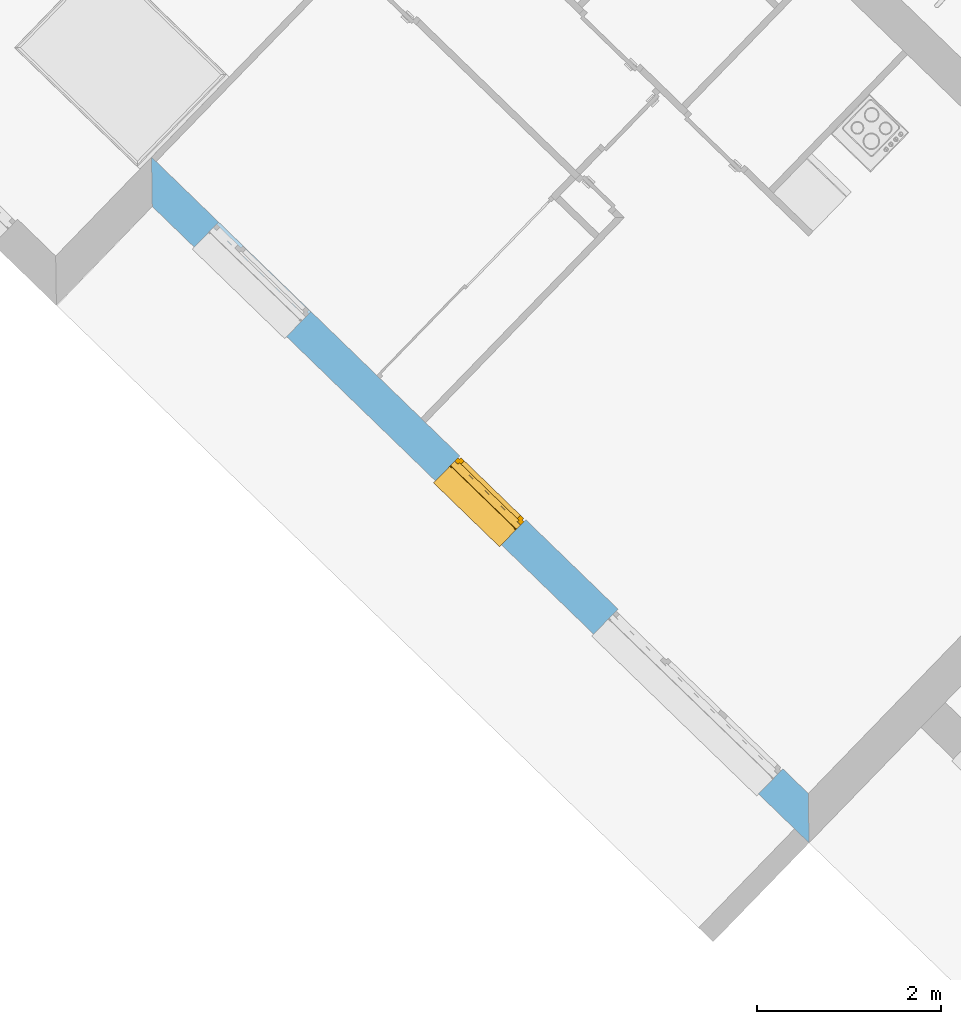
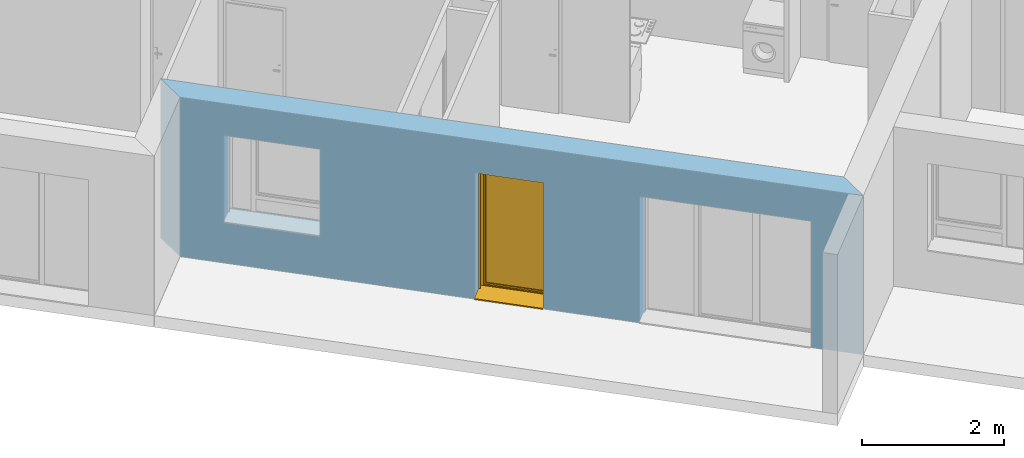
# One storey, part 107 of 195: 1 window, 3 openings, plus 1 element that does not belong to this part.
"""IFC2X3 building model written with IfcOpenShell, lengths in metres."""

import ifcopenshell
import ifcopenshell.guid

model = None  # the IFC model being written
_history = None  # IfcOwnerHistory: only IFC2X3 demands one
_inside = {}  # id of a spatial element -> (the spatial element, [elements in it])
_under = {}  # id of a project, library or spatial element -> (it, [spatial elements below it])
_declared = {}  # id of a project -> (the project, [libraries it declares])
_typed = {}  # id of a type object -> (the type object, [elements of that type])
_made_of = {}  # id of a material, layer set ... -> (it, [elements and type objects made of it])


def new_model(schema):
    """Start an empty IFC model of exactly this schema.

    Asked for "IFC4X3", IfcOpenShell would pick the latest addendum, in which some entities
    have other attributes; the version numbers below select the first issue.
    IFC2X3 requires an IfcOwnerHistory on every rooted entity: one is made here for all.
    """
    global model, _history
    if schema == "IFC4X3":
        model = ifcopenshell.file(schema_version=(4, 3, 0, 0))
    else:
        model = ifcopenshell.file(schema=schema)
    _inside.clear()
    _under.clear()
    _declared.clear()
    _typed.clear()
    _made_of.clear()
    _history = None
    if model.schema == "IFC2X3":
        org = make("IfcOrganization", Name="unknown")
        user = make(
            "IfcPersonAndOrganization",
            ThePerson=make("IfcPerson", FamilyName="unknown"),
            TheOrganization=org,
        )
        app = make(
            "IfcApplication",
            ApplicationDeveloper=org,
            Version="unknown",
            ApplicationFullName="unknown",
            ApplicationIdentifier="unknown",
        )
        _history = make(
            "IfcOwnerHistory",
            OwningUser=user,
            OwningApplication=app,
            ChangeAction="ADDED",
            CreationDate=0,
        )
    return model


def make(cls, **values):
    """One entity of the class cls with the attributes given. An attribute that is None is left unset."""
    return model.create_entity(
        cls, **{name: value for name, value in values.items() if value is not None}
    )


def entity(cls, *values):
    """Any entity or typed value of the class cls, its attributes in the order of the schema. None: left unset."""
    e = model.create_entity(cls)
    for i, value in enumerate(values):
        if value is not None:
            e[i] = value
    return e


def rooted(cls, **values):
    """An entity with a GlobalId (a new one), such as an element, a storey or a relation."""
    return make(cls, GlobalId=ifcopenshell.guid.new(), OwnerHistory=_history, **values)


def si_unit(unit_type, name, prefix=None):
    """IfcSIUnit, for example si_unit("LENGTHUNIT", "METRE", prefix="MILLI")."""
    return make("IfcSIUnit", UnitType=unit_type, Prefix=prefix, Name=name)


def converted_unit(unit_type, name, factor, base, dimensions=None, offset=None):
    """IfcConversionBasedUnit, such as the inch: factor (a typed value) times the base unit."""
    return make(
        "IfcConversionBasedUnit"
        if offset is None
        else "IfcConversionBasedUnitWithOffset",
        ConversionOffset=offset,
        Dimensions=None
        if dimensions is None
        else entity("IfcDimensionalExponents", *dimensions),
        UnitType=unit_type,
        Name=name,
        ConversionFactor=make(
            "IfcMeasureWithUnit", ValueComponent=factor, UnitComponent=base
        ),
    )


def derived_unit(unit_type, elements):
    """IfcDerivedUnit: a product of units, each with its exponent."""
    return make(
        "IfcDerivedUnit",
        Elements=[
            make("IfcDerivedUnitElement", Unit=unit, Exponent=power)
            for unit, power in elements
        ],
        UnitType=unit_type,
    )


def money_unit(currency):
    """IfcMonetaryUnit."""
    return make("IfcMonetaryUnit", Currency=currency)


def assignment(units):
    """IfcUnitAssignment: the units of a project."""
    return None if units is None else make("IfcUnitAssignment", Units=units)


def point(xyz):
    """IfcCartesianPoint."""
    return None if xyz is None else make("IfcCartesianPoint", Coordinates=xyz)


def direction(xyz):
    """IfcDirection."""
    return None if xyz is None else make("IfcDirection", DirectionRatios=xyz)


def frame(location, z_axis=None, x_axis=None):
    """IfcAxis2Placement3D, a coordinate frame: its origin and axes. An axis left out is left unset."""
    return make(
        "IfcAxis2Placement3D",
        Location=point(location),
        Axis=direction(z_axis),
        RefDirection=direction(x_axis),
    )


def origin_with_axes():
    """The frame at (0, 0, 0) with the z axis (0, 0, 1) and the x axis (1, 0, 0) written out."""
    return frame((0.0, 0.0, 0.0), z_axis=(0.0, 0.0, 1.0), x_axis=(1.0, 0.0, 0.0))


def place(relative_to, where):
    """IfcLocalPlacement: puts the frame where relative to a parent placement (None: the world)."""
    return make(
        "IfcLocalPlacement", PlacementRelTo=relative_to, RelativePlacement=where
    )


def context(
    kind, dimensions, precision=None, world=None, true_north=None, identifier=None
):
    """IfcGeometricRepresentationContext, for example the 3D "Model" context."""
    return make(
        "IfcGeometricRepresentationContext",
        ContextIdentifier=identifier,
        ContextType=kind,
        CoordinateSpaceDimension=dimensions,
        Precision=precision,
        WorldCoordinateSystem=world,
        TrueNorth=true_north,
    )


def subcontext(parent, identifier, kind, view, scale=None):
    """IfcGeometricRepresentationSubContext, for example "Body" below "Model"."""
    return make(
        "IfcGeometricRepresentationSubContext",
        ContextIdentifier=identifier,
        ContextType=kind,
        ParentContext=parent,
        TargetScale=scale,
        TargetView=view,
    )


def project(units=None, contexts=None):
    """IfcProject with its units and contexts."""
    return rooted(
        "IfcProject",
        Name="project",
        RepresentationContexts=contexts,
        UnitsInContext=assignment(units),
    )


def spatial(cls, under=None, at=None, **own):
    """A site, building, storey or space (cls), placed at a placement, below another one or the project."""
    s = rooted(cls, ObjectPlacement=at, **own)
    if under is not None:
        _under.setdefault(under.id(), (under, []))[1].append(s)
    return s


def polyline(points):
    """IfcPolyline through the points."""
    return make("IfcPolyline", Points=[point(p) for p in points])


def outline(outer, holes=None, kind="AREA"):
    """IfcArbitraryClosedProfileDef: a profile drawn as a closed curve; with holes, ...WithVoids."""
    if holes is None:
        return make("IfcArbitraryClosedProfileDef", ProfileType=kind, OuterCurve=outer)
    return make(
        "IfcArbitraryProfileDefWithVoids",
        ProfileType=kind,
        OuterCurve=outer,
        InnerCurves=holes,
    )


def extrude(swept, where, along, depth):
    """IfcExtrudedAreaSolid: the profile swept, set in the frame where, extruded along a direction by depth."""
    return make(
        "IfcExtrudedAreaSolid",
        SweptArea=swept,
        Position=where,
        ExtrudedDirection=direction(along),
        Depth=depth,
    )


def faces_of(points, faces, orient=None, outer=None):
    """IfcFace entities. A face is a list of loops; a loop is a list of indices into points, from 0.

    orient and outer hold one flag for each loop. By default every Orientation is true, the
    first loop of a face is its IfcFaceOuterBound and the others are IfcFaceBound.
    """
    made = []
    for i, loops in enumerate(faces):
        bounds = []
        for j, loop in enumerate(loops):
            is_outer = j == 0 if outer is None else outer[i][j]
            bounds.append(
                make(
                    "IfcFaceOuterBound" if is_outer else "IfcFaceBound",
                    Bound=make("IfcPolyLoop", Polygon=[points[k] for k in loop]),
                    Orientation=True if orient is None else orient[i][j],
                )
            )
        made.append(make("IfcFace", Bounds=bounds))
    return made


def open_shell(faces, orient=None, outer=None):
    """The faces of one IfcOpenShell. surface_model builds it on its shared points."""
    return ("IfcOpenShell", faces, orient, outer)


def faceted_brep(points, faces, orient=None, outer=None, voids=None):
    """IfcFacetedBrep: a solid bounded by flat faces; with voids (closed shells), ...WithVoids."""
    shared = [point(p) for p in points]
    hull = make("IfcClosedShell", CfsFaces=faces_of(shared, faces, orient, outer))
    if voids is None:
        return make("IfcFacetedBrep", Outer=hull)
    return make(
        "IfcFacetedBrepWithVoids",
        Outer=hull,
        Voids=[
            make(cls, CfsFaces=faces_of(shared, fs, o, b)) for cls, fs, o, b in voids
        ],
    )


def surface_model(cls, points, shells):
    """IfcFaceBasedSurfaceModel or IfcShellBasedSurfaceModel (cls): surfaces that need not close."""
    shared = [point(p) for p in points]
    made = [make(c, CfsFaces=faces_of(shared, fs, o, b)) for c, fs, o, b in shells]
    if cls == "IfcFaceBasedSurfaceModel":
        return make(cls, FbsmFaces=made)
    return make(cls, SbsmBoundary=made)


def shape(context_of_items, identifier, shape_type, items):
    """IfcShapeRepresentation: the items that make up one representation, for example the "Body"."""
    return make(
        "IfcShapeRepresentation",
        ContextOfItems=context_of_items,
        RepresentationIdentifier=identifier,
        RepresentationType=shape_type,
        Items=items,
    )


def material(Name=None, Category=None):
    """IfcMaterial."""
    return make("IfcMaterial", Name=Name, Category=Category)


def layer(
    of_material, thickness, ventilated=None, Name=None, Category=None, Priority=None
):
    """IfcMaterialLayer: one layer of a wall or slab, of a material (None: an air gap)."""
    return make(
        "IfcMaterialLayer",
        Material=of_material,
        LayerThickness=thickness,
        IsVentilated=ventilated,
        Name=Name,
        Category=Category,
        Priority=Priority,
    )


def layer_set(layers, Name=None):
    """IfcMaterialLayerSet."""
    return make("IfcMaterialLayerSet", MaterialLayers=layers, LayerSetName=Name)


def layer_usage(for_layer_set, set_direction, sense, offset, extent=None):
    """IfcMaterialLayerSetUsage: how a layer set lies in its element."""
    return make(
        "IfcMaterialLayerSetUsage",
        ForLayerSet=for_layer_set,
        LayerSetDirection=set_direction,
        DirectionSense=sense,
        OffsetFromReferenceLine=offset,
        ReferenceExtent=extent,
    )


def made_of(thing, what):
    """Note that an element or type object is made of a material, layer set ...; save() writes the relation."""
    if what is not None:
        _made_of.setdefault(what.id(), (what, []))[1].append(thing)
    return thing


def type_object(cls, material=None, **own):
    """A type object (cls), such as IfcWallType, which elements share."""
    return made_of(rooted(cls, **own), material)


def element(
    cls,
    number,
    at=None,
    inside=None,
    cuts=None,
    type_object=None,
    material=None,
    context=None,
    identifier="Body",
    shape_type=None,
    held_by="IfcProductDefinitionShape",
    body=None,
    shapes=None,
    **own,
):
    """One element of the class cls, such as IfcWall. Its Tag is "e" and its number.

    at: its placement. inside: the storey or other place that contains it. cuts: it is an
    opening in that element (IfcRelVoidsElement). A single representation is given by context,
    identifier, shape_type and body (its items); several are given by shapes. held_by: the class
    of the entity that holds the representations. save() writes the other relations.
    """
    e = rooted(cls, Tag="e%d" % number, ObjectPlacement=at, **own)
    if body is not None:
        shapes = [shape(context, identifier, shape_type, body)]
    if shapes is not None:
        e.Representation = make(held_by, Representations=shapes)
    if inside is not None:
        _inside.setdefault(inside.id(), (inside, []))[1].append(e)
    if cuts is not None:
        rooted(
            "IfcRelVoidsElement", RelatingBuildingElement=cuts, RelatedOpeningElement=e
        )
    if type_object is not None:
        _typed.setdefault(type_object.id(), (type_object, []))[1].append(e)
    return made_of(e, material)


def fill(opening, filler):
    """IfcRelFillsElement: the door or window that sits in an opening."""
    return rooted(
        "IfcRelFillsElement",
        RelatingOpeningElement=opening,
        RelatedBuildingElement=filler,
    )


def aggregate(whole, parts):
    """IfcRelAggregates: a whole, such as a stair, and the parts it consists of."""
    return rooted("IfcRelAggregates", RelatingObject=whole, RelatedObjects=parts)


def save(model, path):
    """Write the relations noted so far, then the file.

    IfcRelAggregates (storeys below a building ...), IfcRelContainedInSpatialStructure (elements
    in a storey), IfcRelDefinesByType, IfcRelAssociatesMaterial and IfcRelDeclares: one each for
    every whole, place, type object, material and project.
    """
    for whole, parts in _under.values():
        aggregate(whole, parts)
    for where, things in _inside.values():
        rooted(
            "IfcRelContainedInSpatialStructure",
            RelatedElements=things,
            RelatingStructure=where,
        )
    for kind, things in _typed.values():
        rooted("IfcRelDefinesByType", RelatedObjects=things, RelatingType=kind)
    for what, things in _made_of.values():
        rooted("IfcRelAssociatesMaterial", RelatedObjects=things, RelatingMaterial=what)
    for by, libraries in _declared.values():
        rooted("IfcRelDeclares", RelatingContext=by, RelatedDefinitions=libraries)
    model.write(path)


model = new_model("IFC2X3")

# Units and contexts
model_context = context("Model", 3, precision=1e-05, world=origin_with_axes(), true_north=direction((0.0, 1.0)))
body_context = subcontext(model_context, "Body", "Model", "MODEL_VIEW")
ifc_project = project(units=[si_unit("LENGTHUNIT", "METRE"), si_unit("AREAUNIT", "SQUARE_METRE"), si_unit("VOLUMEUNIT", "CUBIC_METRE"), converted_unit("PLANEANGLEUNIT", "DEGREE", entity("IfcPlaneAngleMeasure", 0.0174532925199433), si_unit("PLANEANGLEUNIT", "RADIAN"), dimensions=[0, 0, 0, 0, 0, 0, 0]), money_unit("CHF"), converted_unit("TIMEUNIT", "Year", entity("IfcTimeMeasure", 31557600.0), si_unit("TIMEUNIT", "SECOND"), dimensions=[0, 0, 1, 0, 0, 0, 0]), si_unit("MASSUNIT", "GRAM", prefix="KILO"), si_unit("THERMODYNAMICTEMPERATUREUNIT", "DEGREE_CELSIUS"), si_unit("LUMINOUSINTENSITYUNIT", "LUMEN"), si_unit("ENERGYUNIT", "JOULE", prefix="MEGA"), derived_unit("THERMALCONDUCTANCEUNIT", [(si_unit("POWERUNIT", "WATT"), 1), (si_unit("LENGTHUNIT", "METRE"), -1), (si_unit("THERMODYNAMICTEMPERATUREUNIT", "KELVIN"), -1)]), derived_unit("SPECIFICHEATCAPACITYUNIT", [(si_unit("ENERGYUNIT", "JOULE"), 1), (si_unit("MASSUNIT", "GRAM", prefix="KILO"), -1), (si_unit("THERMODYNAMICTEMPERATUREUNIT", "KELVIN"), -1)]), derived_unit("MASSDENSITYUNIT", [(si_unit("MASSUNIT", "GRAM", prefix="KILO"), 1), (si_unit("VOLUMEUNIT", "CUBIC_METRE"), -1)])], contexts=[model_context])

# Site, building, storey
site_placement = place(None, origin_with_axes())
site = spatial("IfcSite", under=ifc_project, at=site_placement, Name="Site", CompositionType="ELEMENT")
building_placement = place(site_placement, origin_with_axes())
building = spatial("IfcBuilding", under=site, at=building_placement, Name="Bâtiment", CompositionType="ELEMENT")
storey_placement = place(building_placement, origin_with_axes())
storey = spatial("IfcBuildingStorey", under=building, at=storey_placement, Name="rdc", CompositionType="ELEMENT", Elevation=0.0)

# Wall, openings, window
ifc_material_1 = material(Name="Parpaing 312445824")
ifc_layer_1 = layer(ifc_material_1, 0.22, ventilated="UNKNOWN")
ifc_material_2 = material(Name="Isolant styromousse 301821074")
ifc_layer_2 = layer(ifc_material_2, 0.16, ventilated="UNKNOWN")
ifc_layer_set = layer_set([ifc_layer_1, ifc_layer_2], Name="isol int 22+16 0836643197")
ifc_layer_usage = layer_usage(ifc_layer_set, "AXIS2", "NEGATIVE", 0.0)
wall_type = type_object("IfcWallType", Name="isol int 22+16 0836643197 380", PredefinedType="NOTDEFINED")
wall_placement = place(storey_placement, frame((9522.723727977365, -1071.439827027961, 57.7), z_axis=(0.0, 0.0, 1.0), x_axis=(-0.7181763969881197, 0.6958610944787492, 0.0)))
wall = element("IfcWallStandardCase", 1, at=wall_placement, inside=storey, type_object=wall_type, material=ifc_layer_usage, Name="Mur-115", context=body_context, shape_type="SweptSolid", body=[
    extrude(outline(polyline([(0.3799999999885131, -0.3800000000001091), (10.33768647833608, -0.3799999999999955), (9.957686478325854, 0.0), (0.0, 0.0), (0.3799999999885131, -0.3800000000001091)])), origin_with_axes(), (0.0, 0.0, 1.0), 2.75),
])
opening_1_placement = place(wall_placement, frame((8.621077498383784, 0.0, 0.7000000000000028), z_axis=(0.0, 0.0, 1.0), x_axis=(1.0, 0.0, 0.0)))
element("IfcOpeningElement", 2, at=opening_1_placement, cuts=wall, Name="Fen-045", context=body_context, shape_type="Brep", body=[
    faceted_brep([(0.7000000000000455, -0.4800000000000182, 1.5), (-0.6999999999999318, -0.4800000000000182, 1.5), (-0.6999999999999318, -5.35736391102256, 1.5), (0.7000000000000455, -5.357363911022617, 1.5), (0.7000000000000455, -0.4800000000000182, 1.700000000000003), (-0.6999999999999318, -0.4800000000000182, 1.700000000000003), (-0.6999999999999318, -0.2999999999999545, 1.5), (-0.6999999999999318, -0.2999999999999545, 0.0), (-0.6999999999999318, -5.35736391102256, 0.0), (0.7000000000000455, -5.357363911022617, 0.0), (0.7000000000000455, -0.3000000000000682, 1.5), (0.7000000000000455, -0.3000000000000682, 0.0), (0.7000000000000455, -0.220000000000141, 1.5), (0.7000000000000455, -0.220000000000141, 1.700000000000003), (-0.6999999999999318, -0.2200000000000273, 1.700000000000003), (-0.6999999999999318, -0.2200000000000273, 1.5), (-0.7000000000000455, 4.977363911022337, 1.5), (-0.7000000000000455, 4.977363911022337, 0.0), (0.6999999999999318, 4.977363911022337, 0.0), (0.6999999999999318, 4.977363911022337, 1.5)], [[[0, 1, 2, 3]], [[1, 0, 4, 5]], [[1, 6, 7, 8, 2]], [[2, 8, 9, 3]], [[10, 0, 3, 9, 11]], [[0, 10, 12, 13, 4]], [[4, 13, 14, 5]], [[6, 1, 5, 14, 15]], [[6, 15, 16, 17, 7]], [[7, 11, 9, 8]], [[12, 10, 11, 18, 19]], [[12, 15, 14, 13]], [[15, 12, 19, 16]], [[19, 18, 17, 16]], [[11, 7, 17, 18]]]),
])
opening_2_placement = place(wall_placement, frame((2.015639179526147, 0.0, 0.0), z_axis=(0.0, 0.0, 1.0), x_axis=(1.0, 0.0, 0.0)))
element("IfcOpeningElement", 3, at=opening_2_placement, cuts=wall, Name="Fen-053", context=body_context, shape_type="Brep", body=[
    faceted_brep([(1.249999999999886, -0.4799999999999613, 2.18), (-1.250000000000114, -0.4799999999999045, 2.18), (-1.25, -5.357363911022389, 2.18), (1.249999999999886, -5.357363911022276, 2.18), (1.249999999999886, -0.4799999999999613, 2.380000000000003), (-1.250000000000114, -0.4799999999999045, 2.380000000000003), (-1.25, -0.2999999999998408, 2.18), (-1.25, -0.2999999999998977, 0.0), (-1.25, -5.357363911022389, 0.0), (1.249999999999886, -5.357363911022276, 0.0), (1.249999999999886, -0.2999999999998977, 2.18), (1.249999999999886, -0.2999999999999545, 0.0), (1.249999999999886, -0.2199999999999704, 2.18), (1.249999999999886, -0.2199999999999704, 2.380000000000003), (-1.250000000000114, -0.2199999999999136, 2.380000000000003), (-1.250000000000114, -0.2199999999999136, 2.18), (-1.25, 4.977363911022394, 2.18), (-1.25, 4.977363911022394, 0.0), (1.249999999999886, 4.977363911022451, 0.0), (1.249999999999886, 4.977363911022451, 2.18)], [[[0, 1, 2, 3]], [[1, 0, 4, 5]], [[1, 6, 7, 8, 2]], [[2, 8, 9, 3]], [[10, 0, 3, 9, 11]], [[0, 10, 12, 13, 4]], [[4, 13, 14, 5]], [[6, 1, 5, 14, 15]], [[6, 15, 16, 17, 7]], [[7, 11, 9, 8]], [[12, 10, 11, 18, 19]], [[12, 15, 14, 13]], [[15, 12, 19, 16]], [[19, 18, 17, 16]], [[11, 7, 17, 18]]]),
])
opening_3_placement = place(wall_placement, frame((5.163672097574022, 0.0, 0.0), z_axis=(0.0, 0.0, 1.0), x_axis=(1.0, 0.0, 0.0)))
opening_3 = element("IfcOpeningElement", 4, at=opening_3_placement, cuts=wall, Name="Fen-052", context=body_context, shape_type="Brep", body=[
    faceted_brep([(0.5000000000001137, -0.4799999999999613, 2.18), (-0.4999999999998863, -0.480000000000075, 2.18), (-0.4999999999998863, -5.357363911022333, 2.18), (0.5000000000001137, -5.357363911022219, 2.18), (0.5000000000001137, -0.4799999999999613, 2.380000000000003), (-0.4999999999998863, -0.480000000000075, 2.380000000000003), (-0.4999999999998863, -0.3000000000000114, 2.18), (-0.4999999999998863, -0.3000000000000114, 0.0), (-0.4999999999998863, -5.357363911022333, 0.0), (0.5000000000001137, -5.357363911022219, 0.0), (0.5, -0.2999999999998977, 2.18), (0.5000000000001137, -0.2999999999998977, 0.0), (0.5, -0.2199999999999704, 2.18), (0.5, -0.2199999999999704, 2.380000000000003), (-0.4999999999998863, -0.2200000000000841, 2.380000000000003), (-0.4999999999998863, -0.2200000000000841, 2.18), (-0.5, 4.977363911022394, 2.18), (-0.5, 4.977363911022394, 0.0), (0.5000000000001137, 4.977363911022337, 0.0), (0.5000000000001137, 4.977363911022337, 2.18)], [[[0, 1, 2, 3]], [[1, 0, 4, 5]], [[1, 6, 7, 8, 2]], [[2, 8, 9, 3]], [[10, 0, 3, 9, 11]], [[0, 10, 12, 13, 4]], [[14, 5, 4, 13]], [[6, 1, 5, 14, 15]], [[6, 15, 16, 17, 7]], [[7, 11, 9, 8]], [[12, 10, 11, 18, 19]], [[12, 15, 14, 13]], [[15, 12, 19, 16]], [[19, 18, 17, 16]], [[11, 7, 17, 18]]]),
])
window_style = type_object("IfcWindowStyle", Name="Fenêtre variable 27", ConstructionType="NOTDEFINED", OperationType="SINGLE_PANEL", ParameterTakesPrecedence=False, Sizeable=False)
window_placement = place(opening_3_placement, frame((0.5000000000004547, 0.0, 0.0), z_axis=(0.0, 0.0, 1.0), x_axis=(-1.0, 0.0, 0.0)))
window = element("IfcWindow", 5, at=window_placement, inside=storey, type_object=window_style, Name="Fen-052", OverallHeight=2.18, OverallWidth=1.0, context=body_context, shape_type="SurfaceModel", body=[
    surface_model("IfcShellBasedSurfaceModel", [(0.0, 0.2990000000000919, 0.04999999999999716), (0.0, 0.2990000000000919, 0.03999999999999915), (1.000000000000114, 0.2990000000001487, 0.03999999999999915), (1.000000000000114, 0.2990000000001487, 0.04999999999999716), (0.0, -0.02999999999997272, 0.02900000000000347), (1.000000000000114, -0.02999999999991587, 0.02900000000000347), (0.0, -0.02999999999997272, 0.009000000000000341), (1.000000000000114, -0.02999999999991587, 0.009000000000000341), (0.0, -0.01999999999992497, 0.01899999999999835), (1.000000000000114, -0.01999999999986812, 0.01899999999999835)], [open_shell([[[0, 1, 2, 3]], [[1, 4, 5, 2]], [[4, 6, 7, 5]], [[6, 8, 9, 7]]])]),
    faceted_brep([(0.0, 0.2200000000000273, 2.380000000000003), (0.003000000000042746, 0.2200000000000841, 2.380000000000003), (0.003000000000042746, 0.480000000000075, 2.380000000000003), (0.0, 0.4800000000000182, 2.380000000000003), (0.0, 0.2200000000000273, 2.18), (0.003000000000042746, 0.2200000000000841, 2.18), (0.003000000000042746, 0.480000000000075, 2.18), (0.0, 0.4800000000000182, 2.18)], [[[0, 1, 2, 3]], [[4, 5, 1, 0]], [[1, 5, 6, 2]], [[3, 2, 6, 7]], [[0, 3, 7, 4]], [[7, 6, 5, 4]]]),
    faceted_brep([(0.9970000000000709, 0.2200000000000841, 2.380000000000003), (1.0, 0.220000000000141, 2.380000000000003), (1.0, 0.4800000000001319, 2.380000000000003), (0.9970000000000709, 0.480000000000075, 2.380000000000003), (0.9970000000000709, 0.2200000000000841, 2.18), (1.0, 0.220000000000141, 2.18), (1.0, 0.4800000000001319, 2.18), (0.9970000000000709, 0.480000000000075, 2.18)], [[[0, 1, 2, 3]], [[4, 5, 1, 0]], [[1, 5, 6, 2]], [[3, 2, 6, 7]], [[0, 3, 7, 4]], [[7, 6, 5, 4]]]),
    faceted_brep([(0.003000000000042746, 0.2200000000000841, 2.18), (0.9970000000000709, 0.2200000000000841, 2.18), (0.9970000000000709, 0.2200000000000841, 2.380000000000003), (0.003000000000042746, 0.2200000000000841, 2.380000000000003), (0.003000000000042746, 0.2230000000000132, 2.18), (0.9970000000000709, 0.2230000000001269, 2.18), (0.9970000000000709, 0.2230000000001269, 2.377000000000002), (0.9970000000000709, 0.477000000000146, 2.377000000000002), (0.9970000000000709, 0.477000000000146, 2.183), (0.9969999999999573, 0.2420000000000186, 2.183), (0.9969999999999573, 0.2420000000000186, 2.18), (0.9970000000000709, 0.480000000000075, 2.18), (0.9970000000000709, 0.480000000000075, 2.380000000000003), (0.003000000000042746, 0.480000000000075, 2.380000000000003), (0.003000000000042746, 0.480000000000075, 2.18), (0.003000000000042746, 0.2420000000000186, 2.18), (0.003000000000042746, 0.2420000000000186, 2.183), (0.003000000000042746, 0.4770000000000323, 2.183), (0.003000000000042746, 0.4770000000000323, 2.377000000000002), (0.003000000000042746, 0.2230000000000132, 2.377000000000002)], [[[0, 1, 2, 3]], [[4, 5, 1, 0]], [[1, 5, 6, 7, 8, 9, 10, 11, 12, 2]], [[3, 2, 12, 13]], [[0, 3, 13, 14, 15, 16, 17, 18, 19, 4]], [[19, 6, 5, 4]], [[18, 7, 6, 19]], [[17, 8, 7, 18]], [[16, 9, 8, 17]], [[15, 10, 9, 16]], [[14, 11, 10, 15]], [[13, 12, 11, 14]]]),
    faceted_brep([(0.006000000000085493, 0.2692457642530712, 2.26576084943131), (0.006000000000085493, 0.2680000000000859, 2.280000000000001), (0.006000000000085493, 0.2692457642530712, 2.294239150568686), (0.005999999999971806, 0.2729452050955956, 2.308045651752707), (0.006000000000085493, 0.2789859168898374, 2.320999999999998), (0.006000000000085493, 0.2871843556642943, 2.332708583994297), (0.006000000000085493, 0.2972914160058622, 2.342815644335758), (0.006000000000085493, 0.3090000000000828, 2.351014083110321), (0.005999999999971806, 0.3219543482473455, 2.357054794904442), (0.006000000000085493, 0.3357608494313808, 2.360754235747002), (0.006000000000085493, 0.3500000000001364, 2.362000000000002), (0.005999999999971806, 0.3642391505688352, 2.360754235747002), (0.005999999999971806, 0.3780456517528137, 2.357054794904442), (0.005999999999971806, 0.3910000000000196, 2.351014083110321), (0.006000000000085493, 0.4027085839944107, 2.342815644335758), (0.006000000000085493, 0.412815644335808, 2.332708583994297), (0.006000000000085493, 0.4210140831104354, 2.320999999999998), (0.005999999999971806, 0.4270547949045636, 2.308045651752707), (0.006000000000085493, 0.4307542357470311, 2.294239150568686), (0.006000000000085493, 0.4320000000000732, 2.280000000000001), (0.006000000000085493, 0.4307542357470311, 2.26576084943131), (0.005999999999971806, 0.4270547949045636, 2.251954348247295), (0.006000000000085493, 0.4210140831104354, 2.238999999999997), (0.006000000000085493, 0.412815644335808, 2.227291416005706), (0.006000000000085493, 0.4027085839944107, 2.217184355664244), (0.005999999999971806, 0.3910000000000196, 2.208985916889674), (0.005999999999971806, 0.3780456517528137, 2.202945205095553), (0.005999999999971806, 0.3642391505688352, 2.199245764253), (0.006000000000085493, 0.3500000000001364, 2.198), (0.006000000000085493, 0.3357608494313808, 2.199245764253), (0.005999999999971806, 0.3219543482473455, 2.202945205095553), (0.006000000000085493, 0.3090000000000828, 2.208985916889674), (0.006000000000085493, 0.2972914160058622, 2.217184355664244), (0.006000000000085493, 0.2871843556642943, 2.227291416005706), (0.006000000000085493, 0.2789859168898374, 2.238999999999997), (0.005999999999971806, 0.2729452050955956, 2.251954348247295), (0.9940000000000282, 0.2692457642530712, 2.26576084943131), (0.9939999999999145, 0.2680000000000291, 2.280000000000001), (0.9940000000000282, 0.2692457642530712, 2.294239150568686), (0.9940000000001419, 0.2729452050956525, 2.308045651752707), (0.9940000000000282, 0.2789859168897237, 2.320999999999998), (0.9940000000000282, 0.2871843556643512, 2.332708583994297), (0.9939999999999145, 0.2972914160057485, 2.342815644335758), (0.9940000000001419, 0.3090000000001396, 2.351014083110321), (0.9940000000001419, 0.3219543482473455, 2.357054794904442), (0.9939999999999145, 0.335760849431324, 2.360754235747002), (0.9940000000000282, 0.3500000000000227, 2.362000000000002), (0.9940000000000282, 0.3642391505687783, 2.360754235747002), (0.9940000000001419, 0.3780456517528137, 2.357054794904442), (0.9940000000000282, 0.3910000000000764, 2.351014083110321), (0.9940000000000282, 0.4027085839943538, 2.342815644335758), (0.9940000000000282, 0.4128156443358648, 2.332708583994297), (0.9940000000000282, 0.4210140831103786, 2.320999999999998), (0.9940000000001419, 0.4270547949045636, 2.308045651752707), (0.9940000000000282, 0.4307542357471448, 2.294239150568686), (0.9940000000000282, 0.4320000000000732, 2.280000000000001), (0.9940000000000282, 0.4307542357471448, 2.26576084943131), (0.9940000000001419, 0.4270547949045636, 2.251954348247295), (0.9940000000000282, 0.4210140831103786, 2.238999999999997), (0.9940000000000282, 0.4128156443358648, 2.227291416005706), (0.9940000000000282, 0.4027085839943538, 2.217184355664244), (0.9940000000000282, 0.3910000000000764, 2.208985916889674), (0.9940000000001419, 0.3780456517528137, 2.202945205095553), (0.9940000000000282, 0.3642391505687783, 2.199245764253), (0.9940000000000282, 0.3500000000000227, 2.198), (0.9939999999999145, 0.335760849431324, 2.199245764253), (0.9940000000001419, 0.3219543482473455, 2.202945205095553), (0.9940000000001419, 0.3090000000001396, 2.208985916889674), (0.9939999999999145, 0.2972914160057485, 2.217184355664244), (0.9940000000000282, 0.2871843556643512, 2.227291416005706), (0.9940000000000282, 0.2789859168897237, 2.238999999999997), (0.9940000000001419, 0.2729452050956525, 2.251954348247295)], [[[0, 1, 2, 3, 4, 5, 6, 7, 8, 9, 10, 11, 12, 13, 14, 15, 16, 17, 18, 19, 20, 21, 22, 23, 24, 25, 26, 27, 28, 29, 30, 31, 32, 33, 34, 35]], [[0, 36, 37, 1]], [[1, 37, 38, 2]], [[2, 38, 39, 3]], [[3, 39, 40, 4]], [[4, 40, 41, 5]], [[5, 41, 42, 6]], [[6, 42, 43, 7]], [[7, 43, 44, 8]], [[8, 44, 45, 9]], [[9, 45, 46, 10]], [[10, 46, 47, 11]], [[11, 47, 48, 12]], [[12, 48, 49, 13]], [[13, 49, 50, 14]], [[14, 50, 51, 15]], [[15, 51, 52, 16]], [[16, 52, 53, 17]], [[17, 53, 54, 18]], [[18, 54, 55, 19]], [[19, 55, 56, 20]], [[20, 56, 57, 21]], [[21, 57, 58, 22]], [[22, 58, 59, 23]], [[23, 59, 60, 24]], [[24, 60, 61, 25]], [[25, 61, 62, 26]], [[26, 62, 63, 27]], [[27, 63, 64, 28]], [[28, 64, 65, 29]], [[29, 65, 66, 30]], [[30, 66, 67, 31]], [[31, 67, 68, 32]], [[32, 68, 69, 33]], [[33, 69, 70, 34]], [[34, 70, 71, 35]], [[35, 71, 36, 0]], [[36, 71, 70, 69, 68, 67, 66, 65, 64, 63, 62, 61, 60, 59, 58, 57, 56, 55, 54, 53, 52, 51, 50, 49, 48, 47, 46, 45, 44, 43, 42, 41, 40, 39, 38, 37]]]),
    faceted_brep([(1.0, 0.2450000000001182, 0.03000000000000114), (1.0, 0.2450000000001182, 2.18), (1.0, 0.220000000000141, 2.18), (1.0, 0.220000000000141, 0.03000000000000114), (0.9750000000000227, 0.2450000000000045, 0.03000000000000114), (0.9750000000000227, 0.2450000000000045, 2.18), (0.9750000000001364, 0.2420000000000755, 2.18), (0.9969999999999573, 0.2420000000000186, 2.18), (0.9970000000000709, 0.2230000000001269, 2.18), (0.9750000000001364, 0.22300000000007, 2.18), (0.9750000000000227, 0.2200000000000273, 2.18), (0.9750000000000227, 0.2200000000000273, 0.03000000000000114), (0.9750000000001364, 0.22300000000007, 0.03000000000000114), (0.9970000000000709, 0.2230000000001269, 0.03000000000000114), (0.9969999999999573, 0.2420000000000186, 0.03000000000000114), (0.9750000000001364, 0.2420000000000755, 0.03000000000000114)], [[[0, 1, 2, 3]], [[4, 5, 1, 0]], [[1, 5, 6, 7, 8, 9, 10, 2]], [[3, 2, 10, 11]], [[0, 3, 11, 12, 13, 14, 15, 4]], [[15, 6, 5, 4]], [[14, 7, 6, 15]], [[13, 8, 7, 14]], [[12, 9, 8, 13]], [[11, 10, 9, 12]]]),
    faceted_brep([(0.0, 0.2450000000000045, 0.03000000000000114), (0.0, 0.2200000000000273, 0.03000000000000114), (0.0, 0.2200000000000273, 2.18), (0.0, 0.2450000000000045, 2.18), (0.02500000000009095, 0.2450000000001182, 0.03000000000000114), (0.02499999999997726, 0.2420000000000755, 0.03000000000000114), (0.003000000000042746, 0.2420000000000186, 0.03000000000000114), (0.003000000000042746, 0.2230000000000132, 0.03000000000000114), (0.02499999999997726, 0.22300000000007, 0.03000000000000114), (0.02500000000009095, 0.220000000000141, 0.03000000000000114), (0.02500000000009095, 0.220000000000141, 2.18), (0.02499999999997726, 0.22300000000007, 2.18), (0.003000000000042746, 0.2230000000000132, 2.18), (0.003000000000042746, 0.2420000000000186, 2.18), (0.02499999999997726, 0.2420000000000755, 2.18), (0.02500000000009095, 0.2450000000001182, 2.18)], [[[0, 1, 2, 3]], [[0, 4, 5, 6, 7, 8, 9, 1]], [[1, 9, 10, 2]], [[3, 2, 10, 11, 12, 13, 14, 15]], [[4, 0, 3, 15]], [[5, 4, 15, 14]], [[6, 5, 14, 13]], [[7, 6, 13, 12]], [[8, 7, 12, 11]], [[9, 8, 11, 10]]]),
    surface_model("IfcShellBasedSurfaceModel", [(0.003000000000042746, 0.2350000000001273, 2.280000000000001), (0.9970000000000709, 0.2350000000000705, 2.280000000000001), (0.9970000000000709, 0.2300000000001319, 2.280000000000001), (0.002999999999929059, 0.230000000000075, 2.280000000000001), (0.003000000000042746, 0.2350000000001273, 2.280000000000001), (0.002999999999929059, 0.230000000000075, 2.280000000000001), (0.9970000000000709, 0.2300000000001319, 2.280000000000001), (0.9970000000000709, 0.2350000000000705, 2.280000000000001)], [open_shell([[[0, 1, 2, 3]], [[4, 5, 6, 7]]])]),
    faceted_brep([(0.003000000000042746, 0.2350000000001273, 2.280000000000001), (0.9970000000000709, 0.2350000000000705, 2.280000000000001), (0.9969999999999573, 0.2333333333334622, 2.263333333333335), (0.003000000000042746, 0.2333333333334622, 2.263333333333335), (0.002999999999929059, 0.230000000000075, 2.280000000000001), (0.9970000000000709, 0.2300000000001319, 2.280000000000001), (0.9970000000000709, 0.2283333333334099, 2.263333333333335), (0.9970000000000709, 0.2283333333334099, 2.24666666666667), (0.9970000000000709, 0.2300000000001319, 2.229999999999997), (0.9970000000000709, 0.2350000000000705, 2.229999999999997), (0.9969999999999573, 0.2333333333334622, 2.24666666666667), (0.003000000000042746, 0.2333333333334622, 2.24666666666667), (0.003000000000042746, 0.2350000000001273, 2.229999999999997), (0.002999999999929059, 0.230000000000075, 2.229999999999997), (0.003000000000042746, 0.2283333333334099, 2.24666666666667), (0.003000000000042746, 0.2283333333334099, 2.263333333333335)], [[[0, 1, 2, 3]], [[4, 5, 1, 0]], [[1, 5, 6, 7, 8, 9, 10, 2]], [[3, 2, 10, 11]], [[0, 3, 11, 12, 13, 14, 15, 4]], [[15, 6, 5, 4]], [[14, 7, 6, 15]], [[13, 8, 7, 14]], [[12, 9, 8, 13]], [[11, 10, 9, 12]]]),
    faceted_brep([(0.003000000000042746, 0.2350000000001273, 2.229999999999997), (0.9970000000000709, 0.2350000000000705, 2.229999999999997), (0.9969999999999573, 0.2333333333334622, 2.213333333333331), (0.003000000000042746, 0.2333333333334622, 2.213333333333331), (0.002999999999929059, 0.230000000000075, 2.229999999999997), (0.9970000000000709, 0.2300000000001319, 2.229999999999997), (0.9970000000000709, 0.2283333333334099, 2.213333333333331), (0.9970000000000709, 0.2283333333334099, 2.196666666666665), (0.9970000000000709, 0.2300000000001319, 2.18), (0.9970000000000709, 0.2350000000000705, 2.18), (0.9969999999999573, 0.2333333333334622, 2.196666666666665), (0.003000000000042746, 0.2333333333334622, 2.196666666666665), (0.003000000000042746, 0.2350000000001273, 2.18), (0.002999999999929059, 0.230000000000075, 2.18), (0.003000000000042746, 0.2283333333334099, 2.196666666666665), (0.003000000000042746, 0.2283333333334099, 2.213333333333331)], [[[0, 1, 2, 3]], [[4, 5, 1, 0]], [[1, 5, 6, 7, 8, 9, 10, 2]], [[3, 2, 10, 11]], [[0, 3, 11, 12, 13, 14, 15, 4]], [[15, 6, 5, 4]], [[14, 7, 6, 15]], [[13, 8, 7, 14]], [[12, 9, 8, 13]], [[11, 10, 9, 12]]]),
    faceted_brep([(0.02500000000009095, 0.3500000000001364, 2.130000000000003), (0.0, 0.3500000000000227, 2.130000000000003), (0.0, 0.3000000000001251, 2.130000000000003), (0.05000000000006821, 0.3000000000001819, 2.130000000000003), (0.04999999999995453, 0.3250000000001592, 2.130000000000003), (0.02499999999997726, 0.3250000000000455, 2.130000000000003), (0.02500000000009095, 0.3500000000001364, 0.04999999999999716), (0.0, 0.3500000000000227, 0.04999999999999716), (0.0, 0.3000000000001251, 0.04999999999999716), (0.05000000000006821, 0.3000000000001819, 0.04999999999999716), (0.04999999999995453, 0.3250000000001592, 0.04999999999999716), (0.02499999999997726, 0.3250000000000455, 0.04999999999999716)], [[[0, 1, 2, 3, 4, 5]], [[6, 7, 1, 0]], [[1, 7, 8, 2]], [[2, 8, 9, 3]], [[4, 3, 9, 10]], [[10, 11, 5, 4]], [[5, 11, 6, 0]], [[11, 10, 9, 8, 7, 6]]]),
    faceted_brep([(0.9500000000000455, 0.3249999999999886, 2.130000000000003), (0.9499999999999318, 0.3000000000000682, 2.130000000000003), (1.0, 0.3000000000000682, 2.130000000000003), (1.0, 0.3500000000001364, 2.130000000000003), (0.9750000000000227, 0.3500000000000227, 2.130000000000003), (0.9750000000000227, 0.3250000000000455, 2.130000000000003), (0.9500000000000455, 0.3249999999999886, 0.04999999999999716), (0.9499999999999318, 0.3000000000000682, 0.04999999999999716), (1.0, 0.3000000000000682, 0.04999999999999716), (1.0, 0.3500000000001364, 0.04999999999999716), (0.9750000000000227, 0.3500000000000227, 0.04999999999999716), (0.9750000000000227, 0.3250000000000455, 0.04999999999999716)], [[[0, 1, 2, 3, 4, 5]], [[6, 7, 1, 0]], [[8, 2, 1, 7]], [[9, 3, 2, 8]], [[4, 3, 9, 10]], [[10, 11, 5, 4]], [[5, 11, 6, 0]], [[11, 10, 9, 8, 7, 6]]]),
    faceted_brep([(0.9500000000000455, 0.3249999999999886, 0.04999999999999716), (0.9499999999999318, 0.3000000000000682, 0.04999999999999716), (1.0, 0.3000000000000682, 0.04999999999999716), (1.0, 0.3500000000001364, 0.04999999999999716), (0.9750000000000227, 0.3500000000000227, 0.04999999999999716), (0.9750000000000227, 0.3250000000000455, 0.04999999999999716), (0.04999999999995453, 0.3250000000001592, 0.04999999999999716), (0.05000000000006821, 0.3000000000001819, 0.04999999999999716), (0.0, 0.3000000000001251, 0.04999999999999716), (0.0, 0.3000000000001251, 0.0), (1.0, 0.3000000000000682, 0.0), (1.0, 0.3500000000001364, 0.0), (0.02500000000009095, 0.3500000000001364, 0.02499999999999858), (0.9750000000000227, 0.3500000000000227, 0.02499999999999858), (0.0, 0.3500000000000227, 0.0), (0.0, 0.3500000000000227, 0.04999999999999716), (0.02500000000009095, 0.3500000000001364, 0.04999999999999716), (0.9750000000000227, 0.3250000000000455, 0.02499999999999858), (0.02499999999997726, 0.3250000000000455, 0.02499999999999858), (0.02499999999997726, 0.3250000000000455, 0.04999999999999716)], [[[0, 1, 2, 3, 4, 5]], [[6, 7, 1, 0]], [[8, 9, 10, 2, 1, 7]], [[11, 3, 2, 10]], [[12, 13, 4, 3, 11, 14, 15, 16]], [[13, 17, 5, 4]], [[5, 17, 18, 19, 6, 0]], [[19, 16, 15, 8, 7, 6]], [[15, 14, 9, 8]], [[14, 11, 10, 9]], [[12, 18, 17, 13]], [[19, 18, 12, 16]]]),
    faceted_brep([(0.02500000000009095, 0.3500000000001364, 2.130000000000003), (0.0, 0.3500000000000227, 2.130000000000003), (0.0, 0.3500000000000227, 2.18), (1.0, 0.3500000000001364, 2.18), (1.0, 0.3500000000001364, 2.130000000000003), (0.9750000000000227, 0.3500000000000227, 2.130000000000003), (0.9750000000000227, 0.3500000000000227, 2.155000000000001), (0.02500000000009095, 0.3500000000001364, 2.155000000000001), (0.02499999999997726, 0.3250000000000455, 2.130000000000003), (0.04999999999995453, 0.3250000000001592, 2.130000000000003), (0.05000000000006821, 0.3000000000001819, 2.130000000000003), (0.0, 0.3000000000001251, 2.130000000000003), (0.0, 0.3000000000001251, 2.18), (1.0, 0.3000000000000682, 2.18), (1.0, 0.3000000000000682, 2.130000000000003), (0.9750000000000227, 0.3250000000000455, 2.130000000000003), (0.9499999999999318, 0.3000000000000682, 2.130000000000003), (0.9500000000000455, 0.3249999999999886, 2.130000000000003), (0.9750000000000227, 0.3250000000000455, 2.155000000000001), (0.02499999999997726, 0.3250000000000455, 2.155000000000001)], [[[0, 1, 2, 3, 4, 5, 6, 7]], [[8, 9, 10, 11, 1, 0]], [[2, 1, 11, 12]], [[3, 2, 12, 13]], [[4, 3, 13, 14]], [[15, 5, 4, 14, 16, 17]], [[5, 15, 18, 6]], [[6, 18, 19, 7]], [[7, 19, 8, 0]], [[17, 9, 8, 19, 18, 15]], [[17, 16, 10, 9]], [[14, 13, 12, 11, 10, 16]]]),
    faceted_brep([(0.07500000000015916, 0.3250000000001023, 2.104999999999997), (0.07500000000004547, 0.375, 2.104999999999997), (0.02500000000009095, 0.3750000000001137, 2.104999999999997), (0.02499999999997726, 0.3250000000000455, 2.104999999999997), (0.07500000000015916, 0.3250000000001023, 0.07500000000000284), (0.07500000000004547, 0.375, 0.07500000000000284), (0.02500000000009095, 0.3750000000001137, 0.07500000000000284), (0.02499999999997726, 0.3250000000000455, 0.07500000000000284)], [[[0, 1, 2, 3]], [[4, 5, 1, 0]], [[1, 5, 6, 2]], [[3, 2, 6, 7]], [[0, 3, 7, 4]], [[7, 6, 5, 4]]]),
    faceted_brep([(0.9250000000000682, 0.3250000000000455, 0.07500000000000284), (0.9249999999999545, 0.3750000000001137, 0.07500000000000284), (0.9750000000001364, 0.3750000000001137, 0.07500000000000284), (0.9750000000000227, 0.3250000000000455, 0.07500000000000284), (0.9250000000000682, 0.3250000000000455, 2.104999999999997), (0.9249999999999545, 0.3750000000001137, 2.104999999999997), (0.9750000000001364, 0.3750000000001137, 2.104999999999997), (0.9750000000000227, 0.3250000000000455, 2.104999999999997)], [[[0, 1, 2, 3]], [[4, 5, 1, 0]], [[1, 5, 6, 2]], [[3, 2, 6, 7]], [[0, 3, 7, 4]], [[7, 6, 5, 4]]]),
    faceted_brep([(0.9750000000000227, 0.3250000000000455, 0.02499999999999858), (0.9750000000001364, 0.3750000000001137, 0.02499999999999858), (0.9750000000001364, 0.3750000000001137, 0.07500000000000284), (0.9750000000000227, 0.3250000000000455, 0.07500000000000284), (0.02499999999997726, 0.3250000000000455, 0.02499999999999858), (0.02500000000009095, 0.3750000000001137, 0.02499999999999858), (0.02500000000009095, 0.3750000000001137, 0.07500000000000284), (0.07500000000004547, 0.375, 0.07500000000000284), (0.9249999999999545, 0.3750000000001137, 0.07500000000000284), (0.9250000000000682, 0.3250000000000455, 0.07500000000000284), (0.07500000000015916, 0.3250000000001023, 0.07500000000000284), (0.02499999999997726, 0.3250000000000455, 0.07500000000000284)], [[[0, 1, 2, 3]], [[4, 5, 1, 0]], [[1, 5, 6, 7, 8, 2]], [[3, 2, 8, 9]], [[0, 3, 9, 10, 11, 4]], [[11, 6, 5, 4]], [[10, 7, 6, 11]], [[9, 8, 7, 10]]]),
    faceted_brep([(0.02499999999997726, 0.3250000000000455, 2.155000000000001), (0.02500000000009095, 0.3750000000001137, 2.155000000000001), (0.02500000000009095, 0.3750000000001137, 2.104999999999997), (0.02499999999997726, 0.3250000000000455, 2.104999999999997), (0.9750000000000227, 0.3250000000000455, 2.155000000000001), (0.9750000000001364, 0.3750000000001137, 2.155000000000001), (0.9750000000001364, 0.3750000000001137, 2.104999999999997), (0.9249999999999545, 0.3750000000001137, 2.104999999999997), (0.07500000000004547, 0.375, 2.104999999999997), (0.07500000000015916, 0.3250000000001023, 2.104999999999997), (0.9250000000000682, 0.3250000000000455, 2.104999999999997), (0.9750000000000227, 0.3250000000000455, 2.104999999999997)], [[[0, 1, 2, 3]], [[4, 5, 1, 0]], [[1, 5, 6, 7, 8, 2]], [[3, 2, 8, 9]], [[0, 3, 9, 10, 11, 4]], [[11, 6, 5, 4]], [[10, 7, 6, 11]], [[9, 8, 7, 10]]]),
    surface_model("IfcShellBasedSurfaceModel", [(0.07500000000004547, 0.3400000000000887, 0.07500000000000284), (0.9250000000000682, 0.3400000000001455, 0.07500000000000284), (0.9250000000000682, 0.3400000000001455, 2.104999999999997), (0.07500000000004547, 0.3400000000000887, 2.104999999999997)], [open_shell([[[0, 1, 2, 3]]])]),
    surface_model("IfcShellBasedSurfaceModel", [(0.07500000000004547, 0.3600000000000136, 0.07500000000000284), (0.07500000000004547, 0.3600000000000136, 2.104999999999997), (0.9249999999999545, 0.3600000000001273, 2.104999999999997), (0.9249999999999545, 0.3600000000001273, 0.07500000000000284)], [open_shell([[[0, 1, 2, 3]]])]),
])
fill(opening_3, window)

save(model, "model.ifc")
